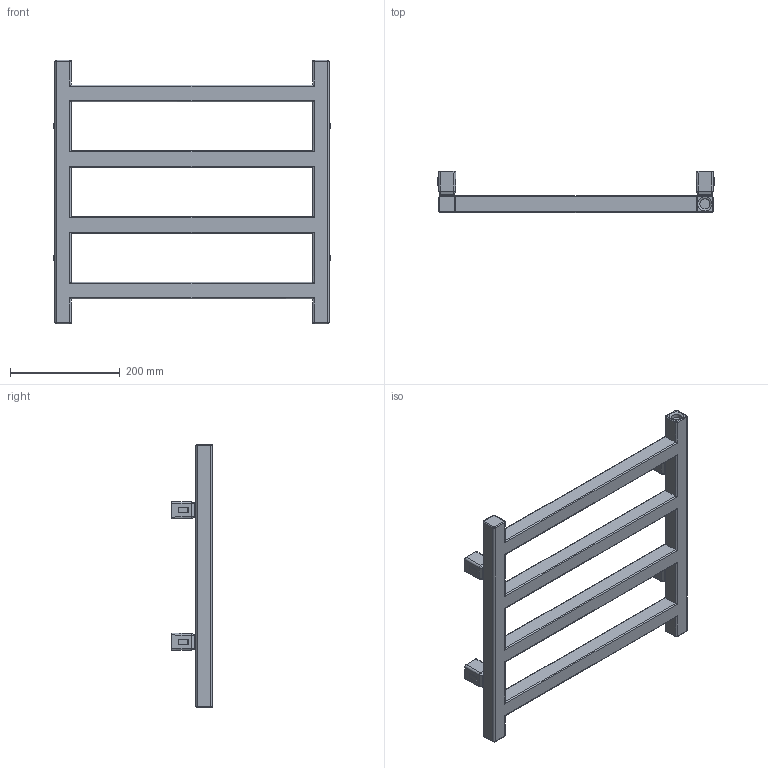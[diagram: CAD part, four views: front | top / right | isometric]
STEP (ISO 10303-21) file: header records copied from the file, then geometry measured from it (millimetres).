
FILE_DESCRIPTION((''),'2;1');
FILE_NAME('Z:\R\G\P\RGP035 - Grzejnik Simple\Work\Inventor\Marketing\AutoCad 3D\G-SI-XX-MK-XX-48-50-SX.stp','2012-07-24T13:55:46',('DawPi'),(''),'Autodesk Inventor 2012','Autodesk Inventor 2012','');
FILE_SCHEMA(('AUTOMOTIVE_DESIGN { 1 0 10303 214 1 1 1 1 }'));
Length unit declared in the file: millimetre
Products named in the file (3): G-SI-XX-MK-XX-48-50-SX; MKT42-00-A v0.2
Assembly tree (5 placements, depth 2):
  G-SI-XX-MK-XX-48-50-SX
    G-SI-XX-MK-XX-48-50-SX
    MKT42-00-A v0.2  x4
Bounding box: 503.98 x 74.5 x 480 mm (x, y, z)
Volume: 2584259.2 mm3; surface area: 346980.5 mm2
Topology: 5 solids, 5 shells, 383 faces, 923 edges, 581 vertices
Faces by surface type: cylinder 167, plane 145, bspline 60, torus 11
Full cylindrical faces by diameter (mm): 4.134 x4, 10 x4, 12 x4, 18.631 x3
Entity records: 6993 total; most frequent: CARTESIAN_POINT 2557, DIRECTION 908, ORIENTED_EDGE 878, EDGE_CURVE 439, AXIS2_PLACEMENT_3D 350, VERTEX_POINT 287, EDGE_LOOP 232, VECTOR 208
